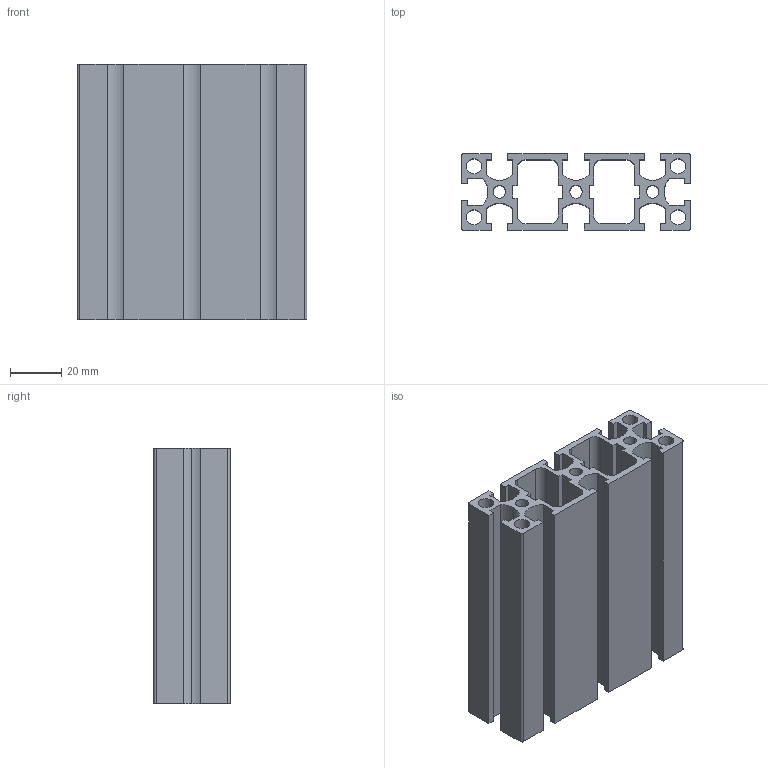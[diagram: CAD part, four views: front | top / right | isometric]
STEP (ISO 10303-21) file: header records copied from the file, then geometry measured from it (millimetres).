
FILE_DESCRIPTION (( 'STEP AP203' ), '1' );
FILE_NAME ('WS3090-6.STEP', '2024-02-17T06:44:05', ( '' ), ( '' ), 'SwSTEP 2.0', 'SolidWorks 2022', '' );
FILE_SCHEMA (( 'CONFIG_CONTROL_DESIGN' ));
Length unit declared in the file: millimetre
Products named in the file (1): WS3090-6
Bounding box: 90 x 30 x 100 mm (x, y, z)
Volume: 95970.7 mm3; surface area: 75524.3 mm2
Topology: 1 solids, 1 shells, 121 faces, 357 edges, 238 vertices
Faces by surface type: plane 86, cylinder 35
Entity records: 4134 total; most frequent: CARTESIAN_POINT 717, ORIENTED_EDGE 714, DIRECTION 671, EDGE_CURVE 357, LINE 287, VECTOR 287, VERTEX_POINT 238, AXIS2_PLACEMENT_3D 192
